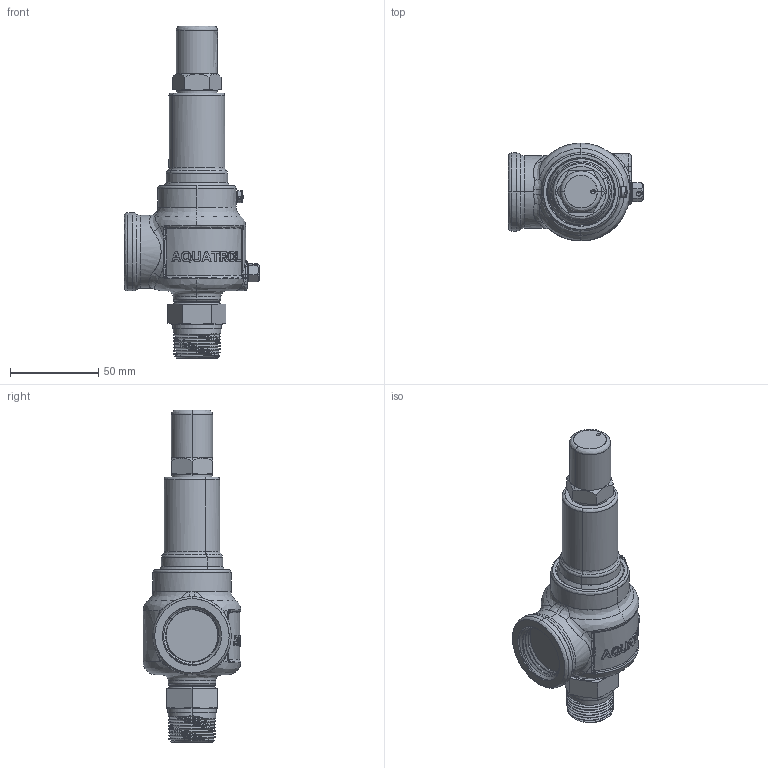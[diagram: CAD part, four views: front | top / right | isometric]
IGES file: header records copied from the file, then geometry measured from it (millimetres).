
Start section: SolidWorks IGES file using NURBS representation for surfaces
Global section: file name: C:\Design\Design\Aquatrol\Customer 3D Files\Series 740 Customer Files\D Orifice\Customer\Iges Files\Series 740 D 750 x 1000 Closed Cap.IGS; native system: SolidWorks 2015; preprocessor: SolidWorks 2015; author: Karl; date: 150515.081144; units: inch
Bounding box: 76.94 x 55.56 x 188.56 mm (x, y, z)
Surface area: 30509.4 mm2 (no closed solid volume)
Topology: 0 solids, 0 shells, 361 faces, 6205 edges, 6205 vertices
Faces by surface type: bspline 361
